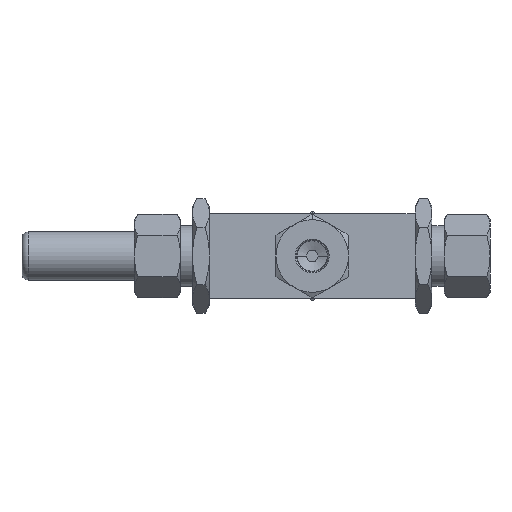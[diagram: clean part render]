
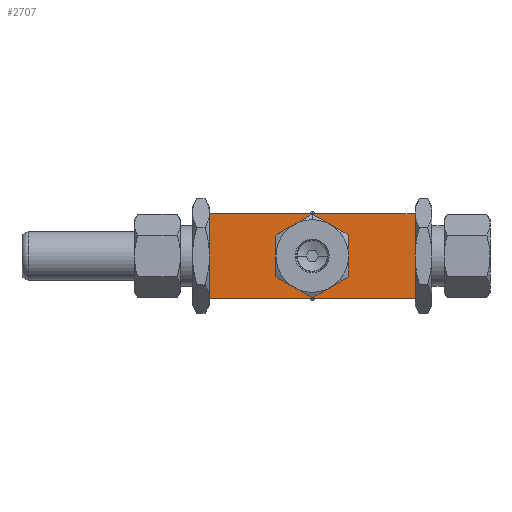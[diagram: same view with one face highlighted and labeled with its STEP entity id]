
A CAD part, front view. The second image highlights one B-rep face of the part: STEP entity #2707.
In plain terms, the highlighted planar face has unit normal (0, -1, 0).
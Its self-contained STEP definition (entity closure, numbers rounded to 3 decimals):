
#24 = VERTEX_POINT ( 'NONE', #1676 ) ;
#36 = VERTEX_POINT ( 'NONE', #1710 ) ;
#61 = VERTEX_POINT ( 'NONE', #4259 ) ;
#71 = CARTESIAN_POINT ( 'NONE',  ( 0., -32.5, -15. ) ) ;
#184 = VECTOR ( 'NONE', #3428, 1000. ) ;
#238 = LINE ( 'NONE', #1810, #1856 ) ;
#257 = AXIS2_PLACEMENT_3D ( 'NONE', #2389, #851, #347 ) ;
#307 = VERTEX_POINT ( 'NONE', #4189 ) ;
#347 = DIRECTION ( 'NONE',  ( 0., 0., -1. ) ) ;
#481 = DIRECTION ( 'NONE',  ( 0., -1., 0. ) ) ;
#519 = FACE_OUTER_BOUND ( 'NONE', #1771, .T. ) ;
#520 = LINE ( 'NONE', #669, #1379 ) ;
#539 = EDGE_CURVE ( 'NONE', #1837, #1824, #4323, .T. ) ;
#566 = DIRECTION ( 'NONE',  ( 0., 0., -1. ) ) ;
#660 = DIRECTION ( 'NONE',  ( 0., 0., -1. ) ) ;
#669 = CARTESIAN_POINT ( 'NONE',  ( 42.5, -32.5, 17.5 ) ) ;
#804 = CARTESIAN_POINT ( 'NONE',  ( 0., -32.5, 0. ) ) ;
#808 = AXIS2_PLACEMENT_3D ( 'NONE', #3918, #5465, #6485 ) ;
#833 = EDGE_CURVE ( 'NONE', #24, #307, #520, .T. ) ;
#851 = DIRECTION ( 'NONE',  ( 0., -1., 0. ) ) ;
#988 = CARTESIAN_POINT ( 'NONE',  ( 0., -32.5, 0. ) ) ;
#1022 = EDGE_CURVE ( 'NONE', #1824, #3150, #2815, .T. ) ;
#1113 = DIRECTION ( 'NONE',  ( 0., -1., 0. ) ) ;
#1276 = CARTESIAN_POINT ( 'NONE',  ( -42.5, -32.5, 17.5 ) ) ;
#1302 = DIRECTION ( 'NONE',  ( 0., -1., 0. ) ) ;
#1374 = ORIENTED_EDGE ( 'NONE', *, *, #2584, .F. ) ;
#1379 = VECTOR ( 'NONE', #1591, 1000. ) ;
#1532 = CARTESIAN_POINT ( 'NONE',  ( 7.5, -32.5, 12.99 ) ) ;
#1591 = DIRECTION ( 'NONE',  ( 0., 0., -1. ) ) ;
#1598 = EDGE_CURVE ( 'NONE', #3629, #61, #1834, .T. ) ;
#1666 = CARTESIAN_POINT ( 'NONE',  ( 0., -32.5, 0. ) ) ;
#1676 = CARTESIAN_POINT ( 'NONE',  ( 42.5, -32.5, 17.5 ) ) ;
#1680 = DIRECTION ( 'NONE',  ( 1., 0., 0. ) ) ;
#1700 = CIRCLE ( 'NONE', #6605, 15. ) ;
#1710 = CARTESIAN_POINT ( 'NONE',  ( -7.5, -32.5, 12.99 ) ) ;
#1750 = AXIS2_PLACEMENT_3D ( 'NONE', #988, #481, #3030 ) ;
#1771 = EDGE_LOOP ( 'NONE', ( #2408, #1941, #4286, #2351 ) ) ;
#1810 = CARTESIAN_POINT ( 'NONE',  ( -42.5, -32.5, -17.5 ) ) ;
#1824 = VERTEX_POINT ( 'NONE', #3520 ) ;
#1834 = LINE ( 'NONE', #1276, #184 ) ;
#1837 = VERTEX_POINT ( 'NONE', #2979 ) ;
#1856 = VECTOR ( 'NONE', #1680, 1000. ) ;
#1900 = CARTESIAN_POINT ( 'NONE',  ( -42.5, -32.5, 17.5 ) ) ;
#1941 = ORIENTED_EDGE ( 'NONE', *, *, #833, .F. ) ;
#1953 = EDGE_CURVE ( 'NONE', #4028, #3875, #1700, .T. ) ;
#2187 = CIRCLE ( 'NONE', #257, 15. ) ;
#2239 = CARTESIAN_POINT ( 'NONE',  ( -42.5, -32.5, 17.5 ) ) ;
#2246 = VERTEX_POINT ( 'NONE', #2943 ) ;
#2255 = ORIENTED_EDGE ( 'NONE', *, *, #4387, .F. ) ;
#2272 = ORIENTED_EDGE ( 'NONE', *, *, #1022, .F. ) ;
#2335 = DIRECTION ( 'NONE',  ( 0., 0., -1. ) ) ;
#2351 = ORIENTED_EDGE ( 'NONE', *, *, #1598, .T. ) ;
#2389 = CARTESIAN_POINT ( 'NONE',  ( 0., -32.5, 0. ) ) ;
#2408 = ORIENTED_EDGE ( 'NONE', *, *, #6581, .T. ) ;
#2561 = DIRECTION ( 'NONE',  ( 0., 0., 1. ) ) ;
#2584 = EDGE_CURVE ( 'NONE', #3875, #36, #6250, .T. ) ;
#2707 = ADVANCED_FACE ( 'NONE', ( #519, #3977 ), #3448, .F. ) ;
#2734 = DIRECTION ( 'NONE',  ( 0., -1., 0. ) ) ;
#2815 = CIRCLE ( 'NONE', #4526, 15. ) ;
#2943 = CARTESIAN_POINT ( 'NONE',  ( 7.5, -32.5, -12.99 ) ) ;
#2979 = CARTESIAN_POINT ( 'NONE',  ( -15., -32.5, 0. ) ) ;
#3005 = EDGE_CURVE ( 'NONE', #3150, #2246, #3148, .T. ) ;
#3030 = DIRECTION ( 'NONE',  ( 0., 0., -1. ) ) ;
#3069 = CARTESIAN_POINT ( 'NONE',  ( -42.5, -32.5, 17.5 ) ) ;
#3148 = CIRCLE ( 'NONE', #1750, 15. ) ;
#3150 = VERTEX_POINT ( 'NONE', #71 ) ;
#3428 = DIRECTION ( 'NONE',  ( 0., 0., -1. ) ) ;
#3448 = PLANE ( 'NONE',  #3898 ) ;
#3449 = EDGE_CURVE ( 'NONE', #2246, #4028, #2187, .T. ) ;
#3513 = DIRECTION ( 'NONE',  ( 0., 1., 0. ) ) ;
#3520 = CARTESIAN_POINT ( 'NONE',  ( -7.5, -32.5, -12.99 ) ) ;
#3563 = EDGE_CURVE ( 'NONE', #3629, #24, #5201, .T. ) ;
#3629 = VERTEX_POINT ( 'NONE', #1900 ) ;
#3875 = VERTEX_POINT ( 'NONE', #1532 ) ;
#3898 = AXIS2_PLACEMENT_3D ( 'NONE', #3069, #3513, #2561 ) ;
#3918 = CARTESIAN_POINT ( 'NONE',  ( 0., -32.5, 0. ) ) ;
#3977 = FACE_BOUND ( 'NONE', #4594, .T. ) ;
#4028 = VERTEX_POINT ( 'NONE', #6438 ) ;
#4083 = CIRCLE ( 'NONE', #5166, 15. ) ;
#4189 = CARTESIAN_POINT ( 'NONE',  ( 42.5, -32.5, -17.5 ) ) ;
#4259 = CARTESIAN_POINT ( 'NONE',  ( -42.5, -32.5, -17.5 ) ) ;
#4272 = CARTESIAN_POINT ( 'NONE',  ( 0., -32.5, 0. ) ) ;
#4286 = ORIENTED_EDGE ( 'NONE', *, *, #3563, .F. ) ;
#4323 = CIRCLE ( 'NONE', #808, 15. ) ;
#4369 = DIRECTION ( 'NONE',  ( 0., -1., 0. ) ) ;
#4387 = EDGE_CURVE ( 'NONE', #36, #1837, #4083, .T. ) ;
#4526 = AXIS2_PLACEMENT_3D ( 'NONE', #4272, #4369, #6412 ) ;
#4594 = EDGE_LOOP ( 'NONE', ( #1374, #5870, #4996, #6031, #2272, #5461, #2255 ) ) ;
#4996 = ORIENTED_EDGE ( 'NONE', *, *, #3449, .F. ) ;
#5166 = AXIS2_PLACEMENT_3D ( 'NONE', #5716, #2734, #660 ) ;
#5201 = LINE ( 'NONE', #2239, #6123 ) ;
#5461 = ORIENTED_EDGE ( 'NONE', *, *, #539, .F. ) ;
#5465 = DIRECTION ( 'NONE',  ( 0., -1., 0. ) ) ;
#5716 = CARTESIAN_POINT ( 'NONE',  ( 0., -32.5, 0. ) ) ;
#5733 = DIRECTION ( 'NONE',  ( 1., 0., 0. ) ) ;
#5870 = ORIENTED_EDGE ( 'NONE', *, *, #1953, .F. ) ;
#5930 = AXIS2_PLACEMENT_3D ( 'NONE', #804, #1302, #2335 ) ;
#6031 = ORIENTED_EDGE ( 'NONE', *, *, #3005, .F. ) ;
#6123 = VECTOR ( 'NONE', #5733, 1000. ) ;
#6250 = CIRCLE ( 'NONE', #5930, 15. ) ;
#6412 = DIRECTION ( 'NONE',  ( 0., 0., -1. ) ) ;
#6438 = CARTESIAN_POINT ( 'NONE',  ( 15., -32.5, 0. ) ) ;
#6485 = DIRECTION ( 'NONE',  ( 0., 0., -1. ) ) ;
#6581 = EDGE_CURVE ( 'NONE', #61, #307, #238, .T. ) ;
#6605 = AXIS2_PLACEMENT_3D ( 'NONE', #1666, #1113, #566 ) ;
